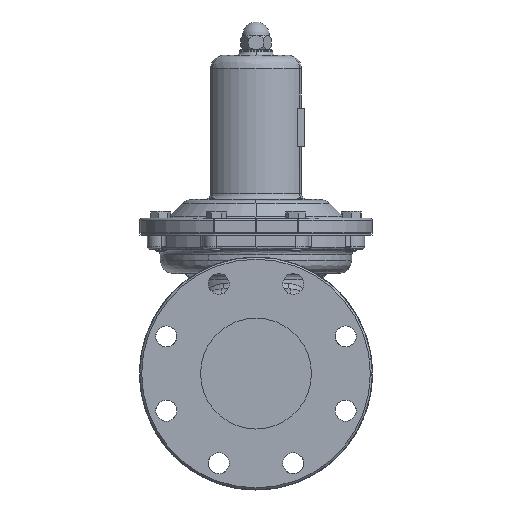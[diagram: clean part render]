
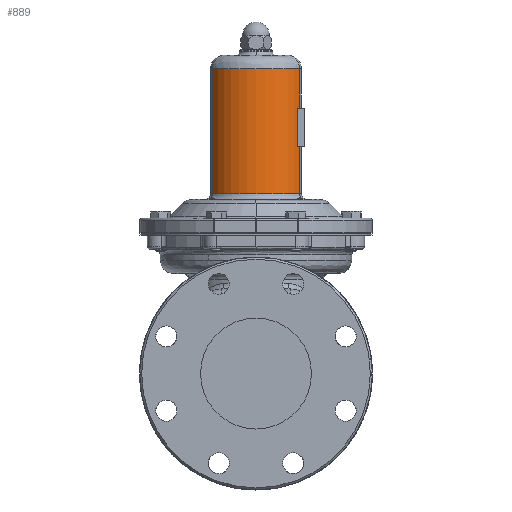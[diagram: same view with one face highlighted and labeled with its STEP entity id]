
A CAD part, left-side view. The second image highlights one B-rep face of the part: STEP entity #889.
In plain terms, the highlighted cylindrical face has radius 46 mm (diameter 92 mm), a partial arc.
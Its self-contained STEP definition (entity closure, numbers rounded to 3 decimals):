
#889=ADVANCED_FACE('',(#7136),#7135,.T.);
#7135=CYLINDRICAL_SURFACE('',#25622,46.);
#7136=FACE_OUTER_BOUND('',#25623,.T.);
#25619=CARTESIAN_POINT('',(0.,0.,92.5));
#25620=DIRECTION('',(0.,0.,-1.));
#25621=DIRECTION('',(-0.522,-0.853,0.));
#25622=AXIS2_PLACEMENT_3D('',#25619,#25620,#25621);
#25623=EDGE_LOOP('',(#29803,#29804,#29805,#29806,#29807,#29808,#29809,#29810));
#29803=ORIENTED_EDGE('',*,*,#32020,.F.);
#29804=ORIENTED_EDGE('',*,*,#32021,.F.);
#29805=ORIENTED_EDGE('',*,*,#32022,.F.);
#29806=ORIENTED_EDGE('',*,*,#31845,.T.);
#29807=ORIENTED_EDGE('',*,*,#31836,.T.);
#29808=ORIENTED_EDGE('',*,*,#31851,.T.);
#29809=ORIENTED_EDGE('',*,*,#31871,.T.);
#29810=ORIENTED_EDGE('',*,*,#31876,.T.);
#31836=EDGE_CURVE('',#41069,#41062,#41070,.T.);
#31845=EDGE_CURVE('',#41111,#41069,#41131,.T.);
#31851=EDGE_CURVE('',#41062,#41162,#41169,.T.);
#31871=EDGE_CURVE('',#41162,#41187,#41300,.T.);
#31876=EDGE_CURVE('',#41187,#41325,#41333,.T.);
#32020=EDGE_CURVE('',#42319,#41325,#42320,.T.);
#32021=EDGE_CURVE('',#42326,#42319,#42327,.T.);
#32022=EDGE_CURVE('',#41111,#42326,#42333,.T.);
#41062=VERTEX_POINT('',#55354);
#41069=VERTEX_POINT('',#55359);
#41070=CIRCLE('',#55363,46.);
#41111=VERTEX_POINT('',#55389);
#41131=LINE('',#55402,#55403);
#41162=VERTEX_POINT('',#55421);
#41169=LINE('',#55426,#55427);
#41187=VERTEX_POINT('',#55437);
#41300=CIRCLE('',#55516,46.);
#41325=VERTEX_POINT('',#55530);
#41333=LINE('',#55536,#55537);
#42319=VERTEX_POINT('',#56182);
#42320=CIRCLE('',#56186,46.);
#42326=VERTEX_POINT('',#56187);
#42327=LINE('',#56188,#56189);
#42333=CIRCLE('',#56194,46.);
#55354=CARTESIAN_POINT('',(-24.012,39.235,149.));
#55359=CARTESIAN_POINT('',(-24.012,-39.235,149.));
#55360=CARTESIAN_POINT('',(0.,0.,149.));
#55361=DIRECTION('',(0.,0.,-1.));
#55362=DIRECTION('',(0.522,0.853,0.));
#55363=AXIS2_PLACEMENT_3D('',#55360,#55361,#55362);
#55389=CARTESIAN_POINT('',(-24.012,-39.235,113.25));
#55402=CARTESIAN_POINT('',(-24.012,-39.235,113.25));
#55403=VECTOR('',#55404,35.75);
#55404=DIRECTION('',(0.,0.,1.));
#55421=CARTESIAN_POINT('',(-24.012,39.235,36.));
#55426=CARTESIAN_POINT('',(-24.012,39.235,149.));
#55427=VECTOR('',#55428,113.);
#55428=DIRECTION('',(0.,0.,-1.));
#55437=CARTESIAN_POINT('',(-24.012,-39.235,36.));
#55513=CARTESIAN_POINT('',(0.,0.,36.));
#55514=DIRECTION('',(0.,0.,1.));
#55515=DIRECTION('',(0.522,-0.853,0.));
#55516=AXIS2_PLACEMENT_3D('',#55513,#55514,#55515);
#55530=CARTESIAN_POINT('',(-24.012,-39.235,78.75));
#55536=CARTESIAN_POINT('',(-24.012,-39.235,36.));
#55537=VECTOR('',#55538,42.75);
#55538=DIRECTION('',(0.,0.,1.));
#56182=CARTESIAN_POINT('',(-26.5,-37.6,78.75));
#56183=CARTESIAN_POINT('',(0.,0.,78.75));
#56184=DIRECTION('',(0.,0.,1.));
#56185=DIRECTION('',(0.576,0.817,0.));
#56186=AXIS2_PLACEMENT_3D('',#56183,#56184,#56185);
#56187=CARTESIAN_POINT('',(-26.5,-37.6,113.25));
#56188=CARTESIAN_POINT('',(-26.5,-37.6,113.25));
#56189=VECTOR('',#56190,34.5);
#56190=DIRECTION('',(0.,0.,-1.));
#56191=CARTESIAN_POINT('',(0.,0.,113.25));
#56192=DIRECTION('',(0.,0.,-1.));
#56193=DIRECTION('',(0.522,0.853,0.));
#56194=AXIS2_PLACEMENT_3D('',#56191,#56192,#56193);
